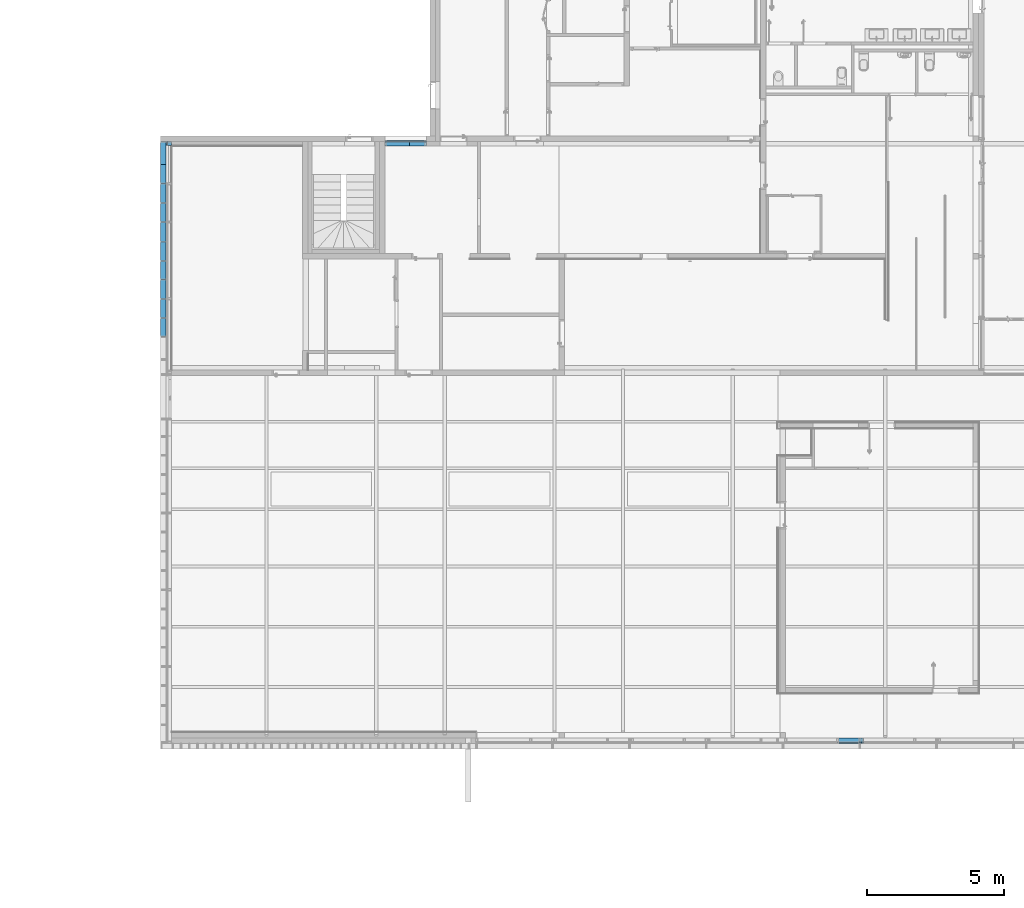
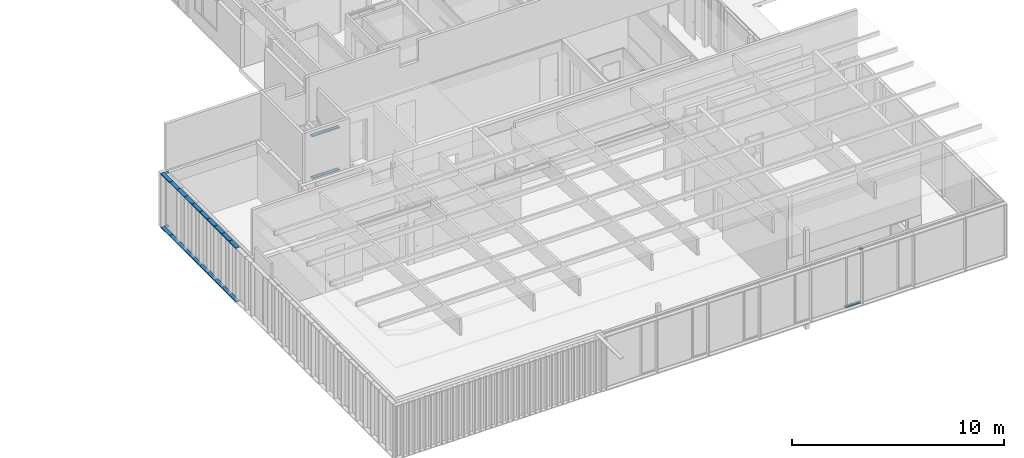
# One storey, part 34 of 240: 28 members, 4 elements without a shape of their own.
"""IFC2X3 building model written with IfcOpenShell, lengths in centimetres."""

import ifcopenshell
import ifcopenshell.guid

model = None  # the IFC model being written
_history = None  # IfcOwnerHistory: only IFC2X3 demands one
_inside = {}  # id of a spatial element -> (the spatial element, [elements in it])
_under = {}  # id of a project, library or spatial element -> (it, [spatial elements below it])
_declared = {}  # id of a project -> (the project, [libraries it declares])
_typed = {}  # id of a type object -> (the type object, [elements of that type])
_made_of = {}  # id of a material, layer set ... -> (it, [elements and type objects made of it])


def new_model(schema):
    """Start an empty IFC model of exactly this schema.

    Asked for "IFC4X3", IfcOpenShell would pick the latest addendum, in which some entities
    have other attributes; the version numbers below select the first issue.
    IFC2X3 requires an IfcOwnerHistory on every rooted entity: one is made here for all.
    """
    global model, _history
    if schema == "IFC4X3":
        model = ifcopenshell.file(schema_version=(4, 3, 0, 0))
    else:
        model = ifcopenshell.file(schema=schema)
    _inside.clear()
    _under.clear()
    _declared.clear()
    _typed.clear()
    _made_of.clear()
    _history = None
    if model.schema == "IFC2X3":
        org = make("IfcOrganization", Name="unknown")
        user = make(
            "IfcPersonAndOrganization",
            ThePerson=make("IfcPerson", FamilyName="unknown"),
            TheOrganization=org,
        )
        app = make(
            "IfcApplication",
            ApplicationDeveloper=org,
            Version="unknown",
            ApplicationFullName="unknown",
            ApplicationIdentifier="unknown",
        )
        _history = make(
            "IfcOwnerHistory",
            OwningUser=user,
            OwningApplication=app,
            ChangeAction="ADDED",
            CreationDate=0,
        )
    return model


def make(cls, **values):
    """One entity of the class cls with the attributes given. An attribute that is None is left unset."""
    return model.create_entity(
        cls, **{name: value for name, value in values.items() if value is not None}
    )


def entity(cls, *values):
    """Any entity or typed value of the class cls, its attributes in the order of the schema. None: left unset."""
    e = model.create_entity(cls)
    for i, value in enumerate(values):
        if value is not None:
            e[i] = value
    return e


def rooted(cls, **values):
    """An entity with a GlobalId (a new one), such as an element, a storey or a relation."""
    return make(cls, GlobalId=ifcopenshell.guid.new(), OwnerHistory=_history, **values)


def si_unit(unit_type, name, prefix=None):
    """IfcSIUnit, for example si_unit("LENGTHUNIT", "METRE", prefix="MILLI")."""
    return make("IfcSIUnit", UnitType=unit_type, Prefix=prefix, Name=name)


def converted_unit(unit_type, name, factor, base, dimensions=None, offset=None):
    """IfcConversionBasedUnit, such as the inch: factor (a typed value) times the base unit."""
    return make(
        "IfcConversionBasedUnit"
        if offset is None
        else "IfcConversionBasedUnitWithOffset",
        ConversionOffset=offset,
        Dimensions=None
        if dimensions is None
        else entity("IfcDimensionalExponents", *dimensions),
        UnitType=unit_type,
        Name=name,
        ConversionFactor=make(
            "IfcMeasureWithUnit", ValueComponent=factor, UnitComponent=base
        ),
    )


def derived_unit(unit_type, elements):
    """IfcDerivedUnit: a product of units, each with its exponent."""
    return make(
        "IfcDerivedUnit",
        Elements=[
            make("IfcDerivedUnitElement", Unit=unit, Exponent=power)
            for unit, power in elements
        ],
        UnitType=unit_type,
    )


def assignment(units):
    """IfcUnitAssignment: the units of a project."""
    return None if units is None else make("IfcUnitAssignment", Units=units)


def point(xyz):
    """IfcCartesianPoint."""
    return None if xyz is None else make("IfcCartesianPoint", Coordinates=xyz)


def direction(xyz):
    """IfcDirection."""
    return None if xyz is None else make("IfcDirection", DirectionRatios=xyz)


def frame(location, z_axis=None, x_axis=None):
    """IfcAxis2Placement3D, a coordinate frame: its origin and axes. An axis left out is left unset."""
    return make(
        "IfcAxis2Placement3D",
        Location=point(location),
        Axis=direction(z_axis),
        RefDirection=direction(x_axis),
    )


def frame_2d(location, x_axis=None):
    """IfcAxis2Placement2D, a coordinate frame in the plane: its origin and x axis."""
    return make(
        "IfcAxis2Placement2D", Location=point(location), RefDirection=direction(x_axis)
    )


def origin():
    """The frame at (0, 0, 0) with its axes left unset."""
    return frame((0.0, 0.0, 0.0))


def origin_2d_with_axis():
    """The frame at (0, 0) in the plane with the x axis (1, 0) written out."""
    return frame_2d((0.0, 0.0), x_axis=(1.0, 0.0))


def place(relative_to, where):
    """IfcLocalPlacement: puts the frame where relative to a parent placement (None: the world)."""
    return make(
        "IfcLocalPlacement", PlacementRelTo=relative_to, RelativePlacement=where
    )


def context(
    kind, dimensions, precision=None, world=None, true_north=None, identifier=None
):
    """IfcGeometricRepresentationContext, for example the 3D "Model" context."""
    return make(
        "IfcGeometricRepresentationContext",
        ContextIdentifier=identifier,
        ContextType=kind,
        CoordinateSpaceDimension=dimensions,
        Precision=precision,
        WorldCoordinateSystem=world,
        TrueNorth=true_north,
    )


def subcontext(parent, identifier, kind, view, scale=None):
    """IfcGeometricRepresentationSubContext, for example "Body" below "Model"."""
    return make(
        "IfcGeometricRepresentationSubContext",
        ContextIdentifier=identifier,
        ContextType=kind,
        ParentContext=parent,
        TargetScale=scale,
        TargetView=view,
    )


def project(units=None, contexts=None):
    """IfcProject with its units and contexts."""
    return rooted(
        "IfcProject",
        Name="project",
        RepresentationContexts=contexts,
        UnitsInContext=assignment(units),
    )


def spatial(cls, under=None, at=None, **own):
    """A site, building, storey or space (cls), placed at a placement, below another one or the project."""
    s = rooted(cls, ObjectPlacement=at, **own)
    if under is not None:
        _under.setdefault(under.id(), (under, []))[1].append(s)
    return s


def polyline(points):
    """IfcPolyline through the points."""
    return make("IfcPolyline", Points=[point(p) for p in points])


def profile(cls, at=None, kind="AREA", **sizes):
    """A parametric profile (cls). Its sizes go by their IFC names, for example OverallWidth=200.0."""
    return make(cls, ProfileType=kind, Position=at, **sizes)


def rectangle(**sizes):
    """IfcRectangleProfileDef."""
    return profile("IfcRectangleProfileDef", **sizes)


def outline(outer, holes=None, kind="AREA"):
    """IfcArbitraryClosedProfileDef: a profile drawn as a closed curve; with holes, ...WithVoids."""
    if holes is None:
        return make("IfcArbitraryClosedProfileDef", ProfileType=kind, OuterCurve=outer)
    return make(
        "IfcArbitraryProfileDefWithVoids",
        ProfileType=kind,
        OuterCurve=outer,
        InnerCurves=holes,
    )


def extrude(swept, where, along, depth):
    """IfcExtrudedAreaSolid: the profile swept, set in the frame where, extruded along a direction by depth."""
    return make(
        "IfcExtrudedAreaSolid",
        SweptArea=swept,
        Position=where,
        ExtrudedDirection=direction(along),
        Depth=depth,
    )


def shape(context_of_items, identifier, shape_type, items):
    """IfcShapeRepresentation: the items that make up one representation, for example the "Body"."""
    return make(
        "IfcShapeRepresentation",
        ContextOfItems=context_of_items,
        RepresentationIdentifier=identifier,
        RepresentationType=shape_type,
        Items=items,
    )


def source(mapping_origin, context_of_items, identifier, shape_type, items):
    """IfcRepresentationMap: a shape defined once, which mapped items show again and again."""
    return make(
        "IfcRepresentationMap",
        MappingOrigin=mapping_origin,
        MappedRepresentation=shape(context_of_items, identifier, shape_type, items),
    )


def transform(
    local_origin,
    x_axis=None,
    y_axis=None,
    z_axis=None,
    scale=None,
    scale2=None,
    scale3=None,
    uniform=True,
):
    """IfcCartesianTransformationOperator3D, or its non-uniform kind. x_axis, y_axis, z_axis: its Axis1, 2, 3."""
    if uniform:
        return make(
            "IfcCartesianTransformationOperator3D",
            Axis1=direction(x_axis),
            Axis2=direction(y_axis),
            LocalOrigin=point(local_origin),
            Scale=scale,
            Axis3=direction(z_axis),
        )
    return make(
        "IfcCartesianTransformationOperator3DnonUniform",
        Axis1=direction(x_axis),
        Axis2=direction(y_axis),
        LocalOrigin=point(local_origin),
        Scale=scale,
        Axis3=direction(z_axis),
        Scale2=scale2,
        Scale3=scale3,
    )


def mapped(mapping_source, mapping_target):
    """IfcMappedItem: shows the shape of a source again, moved by a transform."""
    return make(
        "IfcMappedItem", MappingSource=mapping_source, MappingTarget=mapping_target
    )


def material(Name=None, Category=None):
    """IfcMaterial."""
    return make("IfcMaterial", Name=Name, Category=Category)


def made_of(thing, what):
    """Note that an element or type object is made of a material, layer set ...; save() writes the relation."""
    if what is not None:
        _made_of.setdefault(what.id(), (what, []))[1].append(thing)
    return thing


def type_object(cls, material=None, **own):
    """A type object (cls), such as IfcWallType, which elements share."""
    return made_of(rooted(cls, **own), material)


def type_shapes(of_type, sources):
    """Give a type object the sources (RepresentationMaps) that its elements show as mapped items."""
    of_type.RepresentationMaps = sources


def element(
    cls,
    number,
    at=None,
    inside=None,
    cuts=None,
    type_object=None,
    material=None,
    context=None,
    identifier="Body",
    shape_type=None,
    held_by="IfcProductDefinitionShape",
    body=None,
    shapes=None,
    **own,
):
    """One element of the class cls, such as IfcWall. Its Tag is "e" and its number.

    at: its placement. inside: the storey or other place that contains it. cuts: it is an
    opening in that element (IfcRelVoidsElement). A single representation is given by context,
    identifier, shape_type and body (its items); several are given by shapes. held_by: the class
    of the entity that holds the representations. save() writes the other relations.
    """
    e = rooted(cls, Tag="e%d" % number, ObjectPlacement=at, **own)
    if body is not None:
        shapes = [shape(context, identifier, shape_type, body)]
    if shapes is not None:
        e.Representation = make(held_by, Representations=shapes)
    if inside is not None:
        _inside.setdefault(inside.id(), (inside, []))[1].append(e)
    if cuts is not None:
        rooted(
            "IfcRelVoidsElement", RelatingBuildingElement=cuts, RelatedOpeningElement=e
        )
    if type_object is not None:
        _typed.setdefault(type_object.id(), (type_object, []))[1].append(e)
    return made_of(e, material)


def aggregate(whole, parts):
    """IfcRelAggregates: a whole, such as a stair, and the parts it consists of."""
    return rooted("IfcRelAggregates", RelatingObject=whole, RelatedObjects=parts)


def save(model, path):
    """Write the relations noted so far, then the file.

    IfcRelAggregates (storeys below a building ...), IfcRelContainedInSpatialStructure (elements
    in a storey), IfcRelDefinesByType, IfcRelAssociatesMaterial and IfcRelDeclares: one each for
    every whole, place, type object, material and project.
    """
    for whole, parts in _under.values():
        aggregate(whole, parts)
    for where, things in _inside.values():
        rooted(
            "IfcRelContainedInSpatialStructure",
            RelatedElements=things,
            RelatingStructure=where,
        )
    for kind, things in _typed.values():
        rooted("IfcRelDefinesByType", RelatedObjects=things, RelatingType=kind)
    for what, things in _made_of.values():
        rooted("IfcRelAssociatesMaterial", RelatedObjects=things, RelatingMaterial=what)
    for by, libraries in _declared.values():
        rooted("IfcRelDeclares", RelatingContext=by, RelatedDefinitions=libraries)
    model.write(path)


model = new_model("IFC2X3")

# Units and contexts
model_context = context("Model", 3, precision=0.001, world=origin(), true_north=direction((6.12303176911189e-17, 1.0)))
body_context = subcontext(model_context, "Body", "Model", "MODEL_VIEW")
ifc_project = project(units=[si_unit("LENGTHUNIT", "METRE", prefix="CENTI"), si_unit("AREAUNIT", "SQUARE_METRE"), si_unit("VOLUMEUNIT", "CUBIC_METRE"), converted_unit("PLANEANGLEUNIT", "DEGREE", entity("IfcRatioMeasure", 0.0174532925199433), si_unit("PLANEANGLEUNIT", "RADIAN"), dimensions=[0, 0, 0, 0, 0, 0, 0]), si_unit("MASSUNIT", "GRAM", prefix="KILO"), derived_unit("MASSDENSITYUNIT", [(si_unit("MASSUNIT", "GRAM", prefix="KILO"), 1), (si_unit("LENGTHUNIT", "METRE"), -3)]), si_unit("TIMEUNIT", "SECOND"), si_unit("FREQUENCYUNIT", "HERTZ"), si_unit("THERMODYNAMICTEMPERATUREUNIT", "DEGREE_CELSIUS"), derived_unit("THERMALTRANSMITTANCEUNIT", [(si_unit("MASSUNIT", "GRAM", prefix="KILO"), 1), (si_unit("THERMODYNAMICTEMPERATUREUNIT", "KELVIN"), -1), (si_unit("TIMEUNIT", "SECOND"), -3)]), derived_unit("VOLUMETRICFLOWRATEUNIT", [(si_unit("LENGTHUNIT", "METRE"), 3), (si_unit("TIMEUNIT", "SECOND"), -1)]), si_unit("ELECTRICCURRENTUNIT", "AMPERE"), si_unit("ELECTRICVOLTAGEUNIT", "VOLT"), si_unit("POWERUNIT", "WATT"), si_unit("FORCEUNIT", "NEWTON", prefix="KILO"), si_unit("ILLUMINANCEUNIT", "LUX"), si_unit("LUMINOUSFLUXUNIT", "LUMEN"), si_unit("LUMINOUSINTENSITYUNIT", "CANDELA"), derived_unit("USERDEFINED", [(si_unit("MASSUNIT", "GRAM", prefix="KILO"), -1), (si_unit("LENGTHUNIT", "METRE"), -2), (si_unit("TIMEUNIT", "SECOND"), 3), (si_unit("LUMINOUSFLUXUNIT", "LUMEN"), 1)]), derived_unit("LINEARVELOCITYUNIT", [(si_unit("LENGTHUNIT", "METRE"), 1), (si_unit("TIMEUNIT", "SECOND"), -1)]), si_unit("PRESSUREUNIT", "PASCAL"), derived_unit("USERDEFINED", [(si_unit("LENGTHUNIT", "METRE"), -2), (si_unit("MASSUNIT", "GRAM", prefix="KILO"), 1), (si_unit("TIMEUNIT", "SECOND"), -2)])], contexts=[model_context])

# Site, building, storey
site_placement = place(None, frame((-2781.94577612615, 7442.24238424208, 0.0)))
site = spatial("IfcSite", under=ifc_project, at=site_placement, Name="Default", CompositionType="ELEMENT")
building_placement = place(site_placement, origin())
building = spatial("IfcBuilding", under=site, at=building_placement, CompositionType="ELEMENT")
storey_placement = place(building_placement, origin())
storey = spatial("IfcBuildingStorey", under=building, at=storey_placement, Name="N00 - COO", CompositionType="ELEMENT", Elevation=0.0)

# Curtain wall, members
curtain_wall_type_1 = type_object("IfcCurtainWallType", Name="Mur-rideau:Epines - 200x50mm", PredefinedType="NOTDEFINED")
curtain_wall_1_placement = place(building_placement, origin())
curtain_wall_1 = element("IfcCurtainWall", 1, at=curtain_wall_1_placement, inside=storey, type_object=curtain_wall_type_1, Name="Mur-rideau:Epines - 200x50mm", ObjectType="Mur-rideau:Epines - 200x50mm")
ifc_material = material(Name="Aluminium")
member_type_1 = type_object("IfcMemberType", Name="200x50 mm", PredefinedType="MEMBER")
shared_shape_1 = source(origin(), body_context, "Body", "SweptSolid", [
    extrude(rectangle(XDim=20.0, YDim=5.0, at=origin_2d_with_axis()), frame((-2.5, 0.0, -70.0), z_axis=(0.0, 0.0, 1.0), x_axis=(0.0, -1.0, 0.0)), (0.0, 0.0, 1.0), 70.0000000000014),
])
type_shapes(member_type_1, [shared_shape_1])
member_1_placement = place(building_placement, frame((-11874.3505746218, -3876.00027342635, 313.0), z_axis=(0.0, 1.0, 0.0), x_axis=(0.0, 0.0, 1.0)))
member_1 = element("IfcMember", 2, at=member_1_placement, type_object=member_type_1, material=ifc_material, Name="Meneau rectangulaire:200x50 mm", ObjectType="Meneau rectangulaire:200x50 mm", context=body_context, shape_type="MappedRepresentation", body=[
    mapped(shared_shape_1, transform((0.0, 0.0, 0.0), scale=1.0)),
])
member_2_placement = place(building_placement, frame((-11874.3505746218, -3946.00027342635, 313.0), z_axis=(0.0, 1.0, 0.0), x_axis=(0.0, 0.0, 1.0)))
member_2 = element("IfcMember", 3, at=member_2_placement, type_object=member_type_1, material=ifc_material, Name="Meneau rectangulaire:200x50 mm", ObjectType="Meneau rectangulaire:200x50 mm", context=body_context, shape_type="MappedRepresentation", body=[
    mapped(shared_shape_1, transform((0.0, 0.0, 0.0), scale=1.0)),
])
member_3_placement = place(building_placement, frame((-11874.3505746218, -3738.00027342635, 313.0), z_axis=(0.0, 1.0, 0.0), x_axis=(0.0, 0.0, 1.0)))
member_3 = element("IfcMember", 4, at=member_3_placement, type_object=member_type_1, material=ifc_material, Name="Meneau rectangulaire:200x50 mm", ObjectType="Meneau rectangulaire:200x50 mm", context=body_context, shape_type="MappedRepresentation", body=[
    mapped(shared_shape_1, transform((0.0, 0.0, 0.0), scale=1.0)),
])
member_4_placement = place(building_placement, frame((-11874.3505746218, -3596.00027342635, 313.0), z_axis=(0.0, 1.0, 0.0), x_axis=(0.0, 0.0, 1.0)))
member_4 = element("IfcMember", 5, at=member_4_placement, type_object=member_type_1, material=ifc_material, Name="Meneau rectangulaire:200x50 mm", ObjectType="Meneau rectangulaire:200x50 mm", context=body_context, shape_type="MappedRepresentation", body=[
    mapped(shared_shape_1, transform((0.0, 0.0, 0.0), scale=1.0)),
])
member_5_placement = place(building_placement, frame((-11874.3505746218, -3526.00027342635, 313.0), z_axis=(0.0, 1.0, 0.0), x_axis=(0.0, 0.0, 1.0)))
member_5 = element("IfcMember", 6, at=member_5_placement, type_object=member_type_1, material=ifc_material, Name="Meneau rectangulaire:200x50 mm", ObjectType="Meneau rectangulaire:200x50 mm", context=body_context, shape_type="MappedRepresentation", body=[
    mapped(shared_shape_1, transform((0.0, 0.0, 0.0), scale=1.0)),
])
member_type_2 = type_object("IfcMemberType", Name="200x50 mm", PredefinedType="MEMBER")
shared_shape_2 = source(origin(), body_context, "Body", "SweptSolid", [
    extrude(rectangle(XDim=20.0, YDim=5.0, at=origin_2d_with_axis()), frame((-2.5, 0.0, -70.0), z_axis=(0.0, 0.0, 1.0), x_axis=(0.0, -1.0, 0.0)), (0.0, 0.0, 1.0), 70.0000000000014),
])
type_shapes(member_type_2, [shared_shape_2])
member_6_placement = place(building_placement, frame((-11874.3505746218, -3526.00027342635, 0.0), z_axis=(0.0, -1.0, 0.0), x_axis=(0.0, 0.0, -1.0)))
member_6 = element("IfcMember", 7, at=member_6_placement, type_object=member_type_2, material=ifc_material, Name="Meneau rectangulaire:200x50 mm", ObjectType="Meneau rectangulaire:200x50 mm", context=body_context, shape_type="MappedRepresentation", body=[
    mapped(shared_shape_2, transform((0.0, 0.0, 0.0), scale=1.0)),
])

curtain_wall_type_2 = type_object("IfcCurtainWallType", Name="Mur-rideau:07 - mur rideau trame 90 cm", PredefinedType="NOTDEFINED")
curtain_wall_2_placement = place(building_placement, origin())
curtain_wall_2 = element("IfcCurtainWall", 8, at=curtain_wall_2_placement, inside=storey, type_object=curtain_wall_type_2, Name="Mur-rideau:07 - mur rideau trame 90 cm", ObjectType="Mur-rideau:07 - mur rideau trame 90 cm")
member_type_3 = type_object("IfcMemberType", Name="150 x 25mm Détails", PredefinedType="MEMBER")
shared_shape_3 = source(origin(), body_context, "Body", "SweptSolid", [
    extrude(outline(polyline([(-13.3333333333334, -3.25000000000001), (0.166666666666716, -3.25000000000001), (0.166666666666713, -0.86874999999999), (3.66666666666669, -0.86874999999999), (3.66666666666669, -3.24999999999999), (5.66666666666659, -3.24999999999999), (5.66666666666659, 3.25), (3.66666666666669, 3.25), (3.66666666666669, 0.868749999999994), (0.166666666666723, 0.868749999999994), (0.166666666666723, 3.25000000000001), (-13.3333333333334, 3.24999999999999), (-13.3333333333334, -3.25000000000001)])), frame((-3.24999999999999, 1.96666666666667, -61.2697602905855), z_axis=(0.0, 0.0, 1.0), x_axis=(0.0, -1.0, 0.0)), (0.0, 0.0, 1.0), 61.2697602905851),
])
type_shapes(member_type_3, [shared_shape_3])
member_7_placement = place(building_placement, frame((-10915.6130476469, -3372.52180651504, 250.0), z_axis=(1.0, 0.0, 0.0), x_axis=(0.0, 0.0, 1.0)))
member_7 = element("IfcMember", 9, at=member_7_placement, type_object=member_type_3, material=ifc_material, Name="Meneau rectangulaire:150 x 25mm Détails", ObjectType="Meneau rectangulaire:150 x 25mm Détails", context=body_context, shape_type="MappedRepresentation", body=[
    mapped(shared_shape_3, transform((0.0, 0.0, 0.0), scale=1.0)),
])
member_type_4 = type_object("IfcMemberType", Name="150 x 25mm Détails", PredefinedType="MEMBER")
shared_shape_4 = source(origin(), body_context, "Body", "SweptSolid", [
    extrude(outline(polyline([(-13.3333333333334, -3.24999999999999), (0.166666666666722, -3.24999999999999), (0.166666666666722, -0.868749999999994), (3.66666666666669, -0.868749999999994), (3.66666666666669, -3.25), (5.66666666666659, -3.25), (5.66666666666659, 3.24999999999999), (3.66666666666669, 3.24999999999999), (3.66666666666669, 0.86874999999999), (0.166666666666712, 0.86874999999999), (0.166666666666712, 3.25000000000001), (-13.3333333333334, 3.25000000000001), (-13.3333333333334, -3.24999999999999)])), frame((-3.24999999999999, 1.96666666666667, -90.0), z_axis=(0.0, 0.0, 1.0), x_axis=(0.0, -1.0, 0.0)), (0.0, 0.0, 1.0), 90.0000000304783),
])
type_shapes(member_type_4, [shared_shape_4])
member_8_placement = place(building_placement, frame((-11066.882807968, -3372.52180651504, 0.0), z_axis=(-1.0, 0.0, 0.0), x_axis=(0.0, 0.0, -1.0)))
member_8 = element("IfcMember", 10, at=member_8_placement, type_object=member_type_4, material=ifc_material, Name="Meneau rectangulaire:150 x 25mm Détails", ObjectType="Meneau rectangulaire:150 x 25mm Détails", context=body_context, shape_type="MappedRepresentation", body=[
    mapped(shared_shape_4, transform((0.0, 0.0, 0.0), scale=1.0)),
])
member_type_5 = type_object("IfcMemberType", Name="150 x 25mm Détails", PredefinedType="MEMBER")
shared_shape_5 = source(origin(), body_context, "Body", "SweptSolid", [
    extrude(outline(polyline([(-13.3333333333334, -3.25000000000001), (0.166666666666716, -3.25000000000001), (0.166666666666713, -0.86874999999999), (3.66666666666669, -0.86874999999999), (3.66666666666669, -3.24999999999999), (5.66666666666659, -3.24999999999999), (5.66666666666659, 3.25), (3.66666666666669, 3.25), (3.66666666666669, 0.868749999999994), (0.166666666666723, 0.868749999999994), (0.166666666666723, 3.25000000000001), (-13.3333333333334, 3.24999999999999), (-13.3333333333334, -3.25000000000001)])), frame((-3.24999999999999, 1.96666666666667, -90.0), z_axis=(0.0, 0.0, 1.0), x_axis=(0.0, -1.0, 0.0)), (0.0, 0.0, 1.0), 90.0000000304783),
])
type_shapes(member_type_5, [shared_shape_5])
member_9_placement = place(building_placement, frame((-10976.8828079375, -3372.52180651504, 250.0), z_axis=(1.0, 0.0, 0.0), x_axis=(0.0, 0.0, 1.0)))
member_9 = element("IfcMember", 11, at=member_9_placement, type_object=member_type_5, material=ifc_material, Name="Meneau rectangulaire:150 x 25mm Détails", ObjectType="Meneau rectangulaire:150 x 25mm Détails", context=body_context, shape_type="MappedRepresentation", body=[
    mapped(shared_shape_5, transform((0.0, 0.0, 0.0), scale=1.0)),
])
member_type_6 = type_object("IfcMemberType", Name="150 x 25mm Détails", PredefinedType="MEMBER")
shared_shape_6 = source(origin(), body_context, "Body", "SweptSolid", [
    extrude(outline(polyline([(-13.3333333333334, -3.24999999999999), (0.166666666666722, -3.24999999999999), (0.166666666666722, -0.868749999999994), (3.66666666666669, -0.868749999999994), (3.66666666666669, -3.25), (5.66666666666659, -3.25), (5.66666666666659, 3.24999999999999), (3.66666666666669, 3.24999999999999), (3.66666666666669, 0.86874999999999), (0.166666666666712, 0.86874999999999), (0.166666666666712, 3.25000000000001), (-13.3333333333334, 3.25000000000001), (-13.3333333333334, -3.24999999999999)])), frame((-3.24999999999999, 1.96666666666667, -61.2697602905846), z_axis=(0.0, 0.0, 1.0), x_axis=(0.0, -1.0, 0.0)), (0.0, 0.0, 1.0), 61.2697602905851),
])
type_shapes(member_type_6, [shared_shape_6])
member_10_placement = place(building_placement, frame((-10976.8828079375, -3372.52180651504, 0.0), z_axis=(-1.0, 0.0, 0.0), x_axis=(0.0, 0.0, -1.0)))
member_10 = element("IfcMember", 12, at=member_10_placement, type_object=member_type_6, material=ifc_material, Name="Meneau rectangulaire:150 x 25mm Détails", ObjectType="Meneau rectangulaire:150 x 25mm Détails", context=body_context, shape_type="MappedRepresentation", body=[
    mapped(shared_shape_6, transform((0.0, 0.0, 0.0), scale=1.0)),
])
aggregate(curtain_wall_2, [member_7, member_8, member_9, member_10])

# Member
member_type_7 = type_object("IfcMemberType", Name="200x50 mm", PredefinedType="MEMBER")
shared_shape_7 = source(origin(), body_context, "Body", "SweptSolid", [
    extrude(rectangle(XDim=20.0, YDim=5.0, at=origin_2d_with_axis()), frame((-2.5, 0.0, -71.9999984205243), z_axis=(0.0, 0.0, 1.0), x_axis=(0.0, -1.0, 0.0)), (0.0, 0.0, 1.0), 71.9999984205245),
])
type_shapes(member_type_7, [shared_shape_7])
member_11_placement = place(building_placement, frame((-11874.3505746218, -3666.00027342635, 313.0), z_axis=(0.0, 1.0, 0.0), x_axis=(0.0, 0.0, 1.0)))
member_11 = element("IfcMember", 13, at=member_11_placement, type_object=member_type_7, material=ifc_material, Name="Meneau rectangulaire:200x50 mm", ObjectType="Meneau rectangulaire:200x50 mm", context=body_context, shape_type="MappedRepresentation", body=[
    mapped(shared_shape_7, transform((0.0, 0.0, 0.0), scale=1.0)),
])

# Curtain wall, members
curtain_wall_type_3 = type_object("IfcCurtainWallType", Name="Mur-rideau:07 - mur rideau trame 280 cm", PredefinedType="NOTDEFINED")
curtain_wall_3_placement = place(building_placement, origin())
curtain_wall_3 = element("IfcCurtainWall", 14, at=curtain_wall_3_placement, inside=storey, type_object=curtain_wall_type_3, Name="Mur-rideau:07 - mur rideau trame 280 cm", ObjectType="Mur-rideau:07 - mur rideau trame 280 cm")
member_type_8 = type_object("IfcMemberType", Name="150 x 25mm Détails", PredefinedType="MEMBER")
shared_shape_8 = source(origin(), body_context, "Body", "SweptSolid", [
    extrude(outline(polyline([(-5.6666666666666, -3.24999999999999), (-3.66666666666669, -3.24999999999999), (-3.66666666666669, -0.868749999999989), (-0.166666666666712, -0.868749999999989), (-0.166666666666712, -3.25000000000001), (13.3333333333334, -3.25000000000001), (13.3333333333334, 3.24999999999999), (-0.16666666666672, 3.24999999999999), (-0.16666666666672, 0.868749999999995), (-3.66666666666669, 0.868749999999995), (-3.66666666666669, 3.25), (-5.6666666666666, 3.25), (-5.6666666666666, -3.24999999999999)])), frame((-3.24999999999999, -1.96666666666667, -83.2500000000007), z_axis=(0.0, 0.0, 1.0), x_axis=(0.0, -1.0, 0.0)), (0.0, 0.0, 1.0), 83.2500000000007),
])
type_shapes(member_type_8, [shared_shape_8])
member_12_placement = place(building_placement, frame((-9334.81674610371, -5562.80173441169, 6.5), z_axis=(1.0, 0.0, 0.0), x_axis=(0.0, 0.0, 1.0)))
member_12 = element("IfcMember", 15, at=member_12_placement, type_object=member_type_8, material=ifc_material, Name="Meneau rectangulaire:150 x 25mm Détails", ObjectType="Meneau rectangulaire:150 x 25mm Détails", context=body_context, shape_type="MappedRepresentation", body=[
    mapped(shared_shape_8, transform((0.0, 0.0, 0.0), scale=1.0)),
])
member_type_9 = type_object("IfcMemberType", Name="150 x 25mm Détails", PredefinedType="MEMBER")
shared_shape_9 = source(origin(), body_context, "Body", "SweptSolid", [
    extrude(outline(polyline([(-5.66666666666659, -3.25), (-3.66666666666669, -3.25), (-3.66666666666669, -0.868749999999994), (-0.166666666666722, -0.868749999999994), (-0.166666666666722, -3.25000000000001), (13.3333333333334, -3.24999999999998), (13.3333333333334, 3.25000000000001), (-0.166666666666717, 3.25000000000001), (-0.166666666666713, 0.868749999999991), (-3.66666666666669, 0.868749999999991), (-3.66666666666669, 3.24999999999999), (-5.66666666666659, 3.24999999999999), (-5.66666666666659, -3.25)])), frame((-3.24999999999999, -1.96666666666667, -16.4999999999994), z_axis=(0.0, 0.0, 1.0), x_axis=(0.0, -1.0, 0.0)), (0.0, 0.0, 1.0), 16.4999999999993),
])
type_shapes(member_type_9, [shared_shape_9])
member_13_placement = place(building_placement, frame((-9338.06674610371, -5562.80173441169, 306.0), z_axis=(-1.0, 0.0, 0.0), x_axis=(0.0, 0.0, -1.0)))
member_13 = element("IfcMember", 16, at=member_13_placement, type_object=member_type_9, material=ifc_material, Name="Meneau rectangulaire:150 x 25mm Détails", ObjectType="Meneau rectangulaire:150 x 25mm Détails", context=body_context, shape_type="MappedRepresentation", body=[
    mapped(shared_shape_9, transform((0.0, 0.0, 0.0), scale=1.0)),
])
aggregate(curtain_wall_3, [member_12, member_13])

curtain_wall_4_placement = place(building_placement, origin())
curtain_wall_4 = element("IfcCurtainWall", 17, at=curtain_wall_4_placement, inside=storey, type_object=curtain_wall_type_3, Name="Mur-rideau:07 - mur rideau trame 280 cm", ObjectType="Mur-rideau:07 - mur rideau trame 280 cm")
member_type_10 = type_object("IfcMemberType", Name="150 x 25mm Détails", PredefinedType="MEMBER")
shared_shape_10 = source(origin(), body_context, "Body", "SweptSolid", [
    extrude(outline(polyline([(-13.3333333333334, -3.24999999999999), (0.166666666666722, -3.24999999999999), (0.166666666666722, -0.868749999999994), (3.66666666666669, -0.868749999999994), (3.66666666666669, -3.25), (5.66666666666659, -3.25), (5.66666666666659, 3.24999999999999), (3.66666666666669, 3.24999999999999), (3.66666666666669, 0.86874999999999), (0.166666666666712, 0.86874999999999), (0.166666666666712, 3.25000000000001), (-13.3333333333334, 3.25000000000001), (-13.3333333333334, -3.24999999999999)])), frame((-3.24999999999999, 1.96666666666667, -13.4784669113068), z_axis=(0.0, 0.0, 1.0), x_axis=(0.0, -1.0, 0.0)), (0.0, 0.0, 1.0), 13.4784669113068),
])
type_shapes(member_type_10, [shared_shape_10])
member_14_placement = place(building_placement, frame((-11860.1844031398, -3386.00027342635, 0.0), z_axis=(0.0, -1.0, 0.0), x_axis=(0.0, 0.0, -1.0)))
member_14 = element("IfcMember", 18, at=member_14_placement, type_object=member_type_10, material=ifc_material, Name="Meneau rectangulaire:150 x 25mm Détails", ObjectType="Meneau rectangulaire:150 x 25mm Détails", context=body_context, shape_type="MappedRepresentation", body=[
    mapped(shared_shape_10, transform((0.0, 0.0, 0.0), scale=1.0)),
])
member_type_11 = type_object("IfcMemberType", Name="150 x 25mm Détails", PredefinedType="MEMBER")
shared_shape_11 = source(origin(), body_context, "Body", "SweptSolid", [
    extrude(outline(polyline([(-13.3333333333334, -3.25000000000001), (0.166666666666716, -3.25000000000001), (0.166666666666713, -0.86874999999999), (3.66666666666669, -0.86874999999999), (3.66666666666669, -3.24999999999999), (5.66666666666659, -3.24999999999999), (5.66666666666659, 3.25), (3.66666666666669, 3.25), (3.66666666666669, 0.868749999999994), (0.166666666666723, 0.868749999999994), (0.166666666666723, 3.25000000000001), (-13.3333333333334, 3.24999999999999), (-13.3333333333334, -3.25000000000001)])), frame((-3.24999999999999, 1.96666666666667, -13.4784669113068), z_axis=(0.0, 0.0, 1.0), x_axis=(0.0, -1.0, 0.0)), (0.0, 0.0, 1.0), 13.4784669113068),
])
type_shapes(member_type_11, [shared_shape_11])
member_15_placement = place(building_placement, frame((-11860.1844031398, -3372.52180651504, 313.0), z_axis=(0.0, 1.0, 0.0), x_axis=(0.0, 0.0, 1.0)))
member_15 = element("IfcMember", 19, at=member_15_placement, type_object=member_type_11, material=ifc_material, Name="Meneau rectangulaire:150 x 25mm Détails", ObjectType="Meneau rectangulaire:150 x 25mm Détails", context=body_context, shape_type="MappedRepresentation", body=[
    mapped(shared_shape_11, transform((0.0, 0.0, 0.0), scale=1.0)),
])
aggregate(curtain_wall_4, [member_14, member_15])

# Member
member_type_12 = type_object("IfcMemberType", Name="200x50 mm", PredefinedType="MEMBER")
shared_shape_12 = source(origin(), body_context, "Body", "SweptSolid", [
    extrude(rectangle(XDim=20.0, YDim=5.0, at=origin_2d_with_axis()), frame((-2.5, 0.0, -83.4784669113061), z_axis=(0.0, 0.0, 1.0), x_axis=(0.0, -1.0, 0.0)), (0.0, 0.0, 1.0), 83.4784669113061),
])
type_shapes(member_type_12, [shared_shape_12])
member_16_placement = place(building_placement, frame((-11874.3505746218, -3372.52180651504, 313.0), z_axis=(0.0, 1.0, 0.0), x_axis=(0.0, 0.0, 1.0)))
member_16 = element("IfcMember", 20, at=member_16_placement, type_object=member_type_12, material=ifc_material, Name="Meneau rectangulaire:200x50 mm", ObjectType="Meneau rectangulaire:200x50 mm", context=body_context, shape_type="MappedRepresentation", body=[
    mapped(shared_shape_12, transform((0.0, 0.0, 0.0), scale=1.0)),
])

member_type_13 = type_object("IfcMemberType", Name="200x50 mm", PredefinedType="MEMBER")
shared_shape_13 = source(origin(), body_context, "Body", "SweptSolid", [
    extrude(rectangle(XDim=20.0, YDim=5.0, at=origin_2d_with_axis()), frame((-2.5, 0.0, -70.0), z_axis=(0.0, 0.0, 1.0), x_axis=(0.0, -1.0, 0.0)), (0.0, 0.0, 1.0), 69.9999999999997),
])
type_shapes(member_type_13, [shared_shape_13])
member_17_placement = place(building_placement, frame((-11874.3505746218, -3946.00027342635, 0.0), z_axis=(0.0, -1.0, 0.0), x_axis=(0.0, 0.0, -1.0)))
member_17 = element("IfcMember", 21, at=member_17_placement, type_object=member_type_13, material=ifc_material, Name="Meneau rectangulaire:200x50 mm", ObjectType="Meneau rectangulaire:200x50 mm", context=body_context, shape_type="MappedRepresentation", body=[
    mapped(shared_shape_13, transform((0.0, 0.0, 0.0), scale=1.0)),
])

member_18_placement = place(building_placement, frame((-11874.3505746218, -4016.00027342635, 0.0), z_axis=(0.0, -1.0, 0.0), x_axis=(0.0, 0.0, -1.0)))
member_18 = element("IfcMember", 22, at=member_18_placement, type_object=member_type_13, material=ifc_material, Name="Meneau rectangulaire:200x50 mm", ObjectType="Meneau rectangulaire:200x50 mm", context=body_context, shape_type="MappedRepresentation", body=[
    mapped(shared_shape_13, transform((0.0, 0.0, 0.0), scale=1.0)),
])

member_19_placement = place(building_placement, frame((-11874.3505746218, -3808.00027342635, 0.0), z_axis=(0.0, -1.0, 0.0), x_axis=(0.0, 0.0, -1.0)))
member_19 = element("IfcMember", 23, at=member_19_placement, type_object=member_type_13, material=ifc_material, Name="Meneau rectangulaire:200x50 mm", ObjectType="Meneau rectangulaire:200x50 mm", context=body_context, shape_type="MappedRepresentation", body=[
    mapped(shared_shape_13, transform((0.0, 0.0, 0.0), scale=1.0)),
])

member_20_placement = place(building_placement, frame((-11874.3505746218, -3666.00027342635, 0.0), z_axis=(0.0, -1.0, 0.0), x_axis=(0.0, 0.0, -1.0)))
member_20 = element("IfcMember", 24, at=member_20_placement, type_object=member_type_13, material=ifc_material, Name="Meneau rectangulaire:200x50 mm", ObjectType="Meneau rectangulaire:200x50 mm", context=body_context, shape_type="MappedRepresentation", body=[
    mapped(shared_shape_13, transform((0.0, 0.0, 0.0), scale=1.0)),
])

member_21_placement = place(building_placement, frame((-11874.3505746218, -3596.00027342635, 0.0), z_axis=(0.0, -1.0, 0.0), x_axis=(0.0, 0.0, -1.0)))
member_21 = element("IfcMember", 25, at=member_21_placement, type_object=member_type_13, material=ifc_material, Name="Meneau rectangulaire:200x50 mm", ObjectType="Meneau rectangulaire:200x50 mm", context=body_context, shape_type="MappedRepresentation", body=[
    mapped(shared_shape_13, transform((0.0, 0.0, 0.0), scale=1.0)),
])

member_type_14 = type_object("IfcMemberType", Name="200x50 mm", PredefinedType="MEMBER")
shared_shape_14 = source(origin(), body_context, "Body", "SweptSolid", [
    extrude(rectangle(XDim=20.0, YDim=5.0, at=origin_2d_with_axis()), frame((-2.5, 0.0, -68.0), z_axis=(0.0, 0.0, 1.0), x_axis=(0.0, -1.0, 0.0)), (0.0, 0.0, 1.0), 67.9999999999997),
])
type_shapes(member_type_14, [shared_shape_14])
member_22_placement = place(building_placement, frame((-11874.3505746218, -3876.00027342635, 0.0), z_axis=(0.0, -1.0, 0.0), x_axis=(0.0, 0.0, -1.0)))
member_22 = element("IfcMember", 26, at=member_22_placement, type_object=member_type_14, material=ifc_material, Name="Meneau rectangulaire:200x50 mm", ObjectType="Meneau rectangulaire:200x50 mm", context=body_context, shape_type="MappedRepresentation", body=[
    mapped(shared_shape_14, transform((0.0, 0.0, 0.0), scale=1.0)),
])

member_type_15 = type_object("IfcMemberType", Name="200x50 mm", PredefinedType="MEMBER")
shared_shape_15 = source(origin(), body_context, "Body", "SweptSolid", [
    extrude(rectangle(XDim=20.0, YDim=5.0, at=origin_2d_with_axis()), frame((-2.5, 0.0, -68.0), z_axis=(0.0, 0.0, 1.0), x_axis=(0.0, -1.0, 0.0)), (0.0, 0.0, 1.0), 68.0000000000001),
])
type_shapes(member_type_15, [shared_shape_15])
member_23_placement = place(building_placement, frame((-11874.3505746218, -3808.00027342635, 313.0), z_axis=(0.0, 1.0, 0.0), x_axis=(0.0, 0.0, 1.0)))
member_23 = element("IfcMember", 27, at=member_23_placement, type_object=member_type_15, material=ifc_material, Name="Meneau rectangulaire:200x50 mm", ObjectType="Meneau rectangulaire:200x50 mm", context=body_context, shape_type="MappedRepresentation", body=[
    mapped(shared_shape_15, transform((0.0, 0.0, 0.0), scale=1.0)),
])

member_type_16 = type_object("IfcMemberType", Name="200x50 mm", PredefinedType="MEMBER")
shared_shape_16 = source(origin(), body_context, "Body", "SweptSolid", [
    extrude(rectangle(XDim=20.0, YDim=5.0, at=origin_2d_with_axis()), frame((-2.5, 0.0, -67.4999999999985), z_axis=(0.0, 0.0, 1.0), x_axis=(0.0, -1.0, 0.0)), (0.0, 0.0, 1.0), 67.4999999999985),
])
type_shapes(member_type_16, [shared_shape_16])
member_24_placement = place(building_placement, frame((-11874.3505746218, -4083.50027342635, 0.0), z_axis=(0.0, -1.0, 0.0), x_axis=(0.0, 0.0, -1.0)))
member_24 = element("IfcMember", 28, at=member_24_placement, type_object=member_type_16, material=ifc_material, Name="Meneau rectangulaire:200x50 mm", ObjectType="Meneau rectangulaire:200x50 mm", context=body_context, shape_type="MappedRepresentation", body=[
    mapped(shared_shape_16, transform((0.0, 0.0, 0.0), scale=1.0)),
])

member_type_17 = type_object("IfcMemberType", Name="200x50 mm", PredefinedType="MEMBER")
shared_shape_17 = source(origin(), body_context, "Body", "SweptSolid", [
    extrude(rectangle(XDim=20.0, YDim=5.0, at=origin_2d_with_axis()), frame((-2.5, 0.0, -67.4999999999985), z_axis=(0.0, 0.0, 1.0), x_axis=(0.0, -1.0, 0.0)), (0.0, 0.0, 1.0), 67.4999999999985),
])
type_shapes(member_type_17, [shared_shape_17])
member_25_placement = place(building_placement, frame((-11874.3505746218, -4016.00027342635, 313.0), z_axis=(0.0, 1.0, 0.0), x_axis=(0.0, 0.0, 1.0)))
member_25 = element("IfcMember", 29, at=member_25_placement, type_object=member_type_17, material=ifc_material, Name="Meneau rectangulaire:200x50 mm", ObjectType="Meneau rectangulaire:200x50 mm", context=body_context, shape_type="MappedRepresentation", body=[
    mapped(shared_shape_17, transform((0.0, 0.0, 0.0), scale=1.0)),
])

member_type_18 = type_object("IfcMemberType", Name="200x50 mm", PredefinedType="MEMBER")
shared_shape_18 = source(origin(), body_context, "Body", "SweptSolid", [
    extrude(rectangle(XDim=20.0, YDim=5.0, at=origin_2d_with_axis()), frame((-2.5, 0.0, -72.0), z_axis=(0.0, 0.0, 1.0), x_axis=(0.0, -1.0, 0.0)), (0.0, 0.0, 1.0), 72.0000000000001),
])
type_shapes(member_type_18, [shared_shape_18])
member_26_placement = place(building_placement, frame((-11874.3505746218, -3738.00027342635, 0.0), z_axis=(0.0, -1.0, 0.0), x_axis=(0.0, 0.0, -1.0)))
member_26 = element("IfcMember", 30, at=member_26_placement, type_object=member_type_18, material=ifc_material, Name="Meneau rectangulaire:200x50 mm", ObjectType="Meneau rectangulaire:200x50 mm", context=body_context, shape_type="MappedRepresentation", body=[
    mapped(shared_shape_18, transform((0.0, 0.0, 0.0), scale=1.0)),
])

member_type_19 = type_object("IfcMemberType", Name="200x50 mm", PredefinedType="MEMBER")
shared_shape_19 = source(origin(), body_context, "Body", "SweptSolid", [
    extrude(rectangle(XDim=20.0, YDim=5.0, at=origin_2d_with_axis()), frame((-2.5, 0.0, -70.0), z_axis=(0.0, 0.0, 1.0), x_axis=(0.0, -1.0, 0.0)), (0.0, 0.0, 1.0), 70.0000000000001),
])
type_shapes(member_type_19, [shared_shape_19])
member_27_placement = place(building_placement, frame((-11874.3505746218, -3456.00027342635, 313.0), z_axis=(0.0, 1.0, 0.0), x_axis=(0.0, 0.0, 1.0)))
member_27 = element("IfcMember", 31, at=member_27_placement, type_object=member_type_19, material=ifc_material, Name="Meneau rectangulaire:200x50 mm", ObjectType="Meneau rectangulaire:200x50 mm", context=body_context, shape_type="MappedRepresentation", body=[
    mapped(shared_shape_19, transform((0.0, 0.0, 0.0), scale=1.0)),
])

member_type_20 = type_object("IfcMemberType", Name="200x50 mm", PredefinedType="MEMBER")
shared_shape_20 = source(origin(), body_context, "Body", "SweptSolid", [
    extrude(rectangle(XDim=20.0, YDim=5.0, at=origin_2d_with_axis()), frame((-2.5, 0.0, -83.4784669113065), z_axis=(0.0, 0.0, 1.0), x_axis=(0.0, -1.0, 0.0)), (0.0, 0.0, 1.0), 83.4784669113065),
])
type_shapes(member_type_20, [shared_shape_20])
member_28_placement = place(building_placement, frame((-11874.3505746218, -3456.00027342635, 0.0), z_axis=(0.0, -1.0, 0.0), x_axis=(0.0, 0.0, -1.0)))
member_28 = element("IfcMember", 32, at=member_28_placement, type_object=member_type_20, material=ifc_material, Name="Meneau rectangulaire:200x50 mm", ObjectType="Meneau rectangulaire:200x50 mm", context=body_context, shape_type="MappedRepresentation", body=[
    mapped(shared_shape_20, transform((0.0, 0.0, 0.0), scale=1.0)),
])

aggregate(curtain_wall_1, [member_16, member_24, member_1, member_22, member_2, member_17, member_25, member_18, member_23, member_19, member_3, member_26, member_11, member_20, member_4, member_21, member_5, member_6, member_27, member_28])

save(model, "model.ifc")
